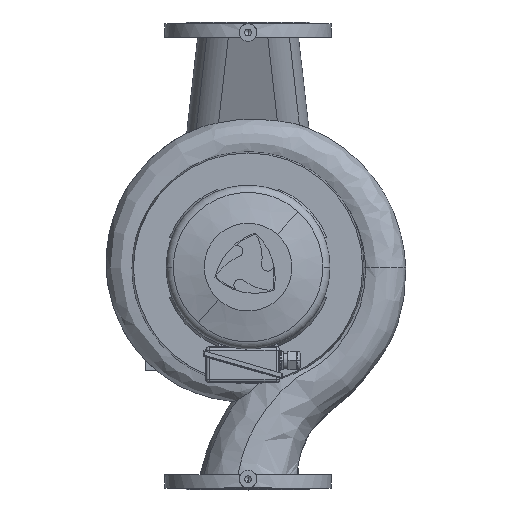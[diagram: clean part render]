
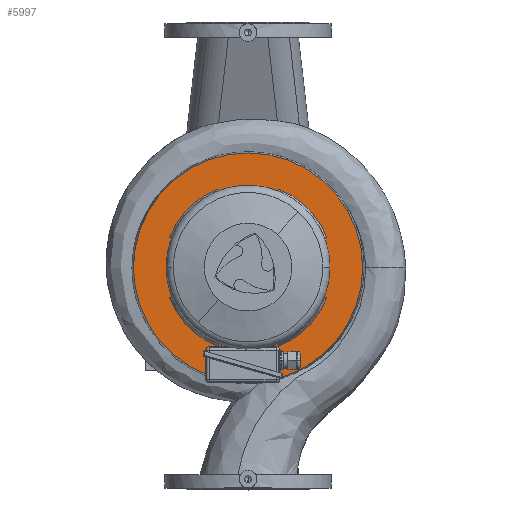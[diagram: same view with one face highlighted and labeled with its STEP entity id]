
A CAD part, top view. The second image highlights one B-rep face of the part: STEP entity #5997.
In plain terms, the highlighted planar face has unit normal (0, 0, 1) as drawn and (1, 0, 0) by its records, which use the part's own axes.
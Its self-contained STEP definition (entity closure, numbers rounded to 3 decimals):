
#5997=ADVANCED_FACE('',(#11830,#11831),#11832,.T.);
#6021=EDGE_CURVE('',#11871,#11872,#11873,.T.);
#6045=EDGE_CURVE('',#11915,#11916,#11917,.T.);
#6053=EDGE_CURVE('',#11925,#11928,#11929,.T.);
#6061=EDGE_CURVE('',#11937,#11940,#11941,.T.);
#6067=EDGE_CURVE('',#11944,#11916,#11949,.T.);
#6069=EDGE_CURVE('',#11951,#11928,#11952,.T.);
#6077=EDGE_CURVE('',#11963,#11959,#11964,.T.);
#6085=EDGE_CURVE('',#11974,#11970,#11975,.T.);
#6093=EDGE_CURVE('',#11981,#11984,#11985,.T.);
#6103=EDGE_CURVE('',#11995,#11925,#11998,.T.);
#6109=EDGE_CURVE('',#12003,#11937,#12006,.T.);
#6117=EDGE_CURVE('',#12014,#12009,#12017,.T.);
#6119=EDGE_CURVE('',#11940,#11959,#12019,.T.);
#6123=EDGE_CURVE('',#12009,#11970,#12023,.T.);
#6127=EDGE_CURVE('',#11984,#11915,#12027,.T.);
#6131=EDGE_CURVE('',#11951,#12003,#12031,.T.);
#6135=EDGE_CURVE('',#11963,#12014,#12035,.T.);
#6137=EDGE_CURVE('',#11944,#11995,#12037,.T.);
#6141=EDGE_CURVE('',#11872,#11871,#12041,.T.);
#6143=EDGE_CURVE('',#11974,#11981,#12043,.T.);
#11830=FACE_OUTER_BOUND('',#23176,.T.);
#11831=FACE_BOUND('',#23177,.T.);
#11832=PLANE('',#23178);
#11871=VERTEX_POINT('',#23219);
#11872=VERTEX_POINT('',#23220);
#11873=CIRCLE('',#23221,196.0);
#11915=VERTEX_POINT('',#23275);
#11916=VERTEX_POINT('',#23276);
#11917=CIRCLE('',#23277,132.799);
#11925=VERTEX_POINT('',#23297);
#11928=VERTEX_POINT('',#23310);
#11929=CIRCLE('',#23311,132.799);
#11937=VERTEX_POINT('',#23331);
#11940=VERTEX_POINT('',#23344);
#11941=CIRCLE('',#23345,132.799);
#11944=VERTEX_POINT('',#23349);
#11949=LINE('',#23366,#23367);
#11951=VERTEX_POINT('',#23370);
#11952=LINE('',#23371,#23372);
#11959=VERTEX_POINT('',#23392);
#11963=VERTEX_POINT('',#23406);
#11964=LINE('',#23407,#23408);
#11970=VERTEX_POINT('',#23427);
#11974=VERTEX_POINT('',#23441);
#11975=LINE('',#23442,#23443);
#11981=VERTEX_POINT('',#23462);
#11984=VERTEX_POINT('',#23475);
#11985=LINE('',#23476,#23477);
#11995=VERTEX_POINT('',#23502);
#11998=LINE('',#23515,#23516);
#12003=VERTEX_POINT('',#23524);
#12006=LINE('',#23537,#23538);
#12009=VERTEX_POINT('',#23542);
#12014=VERTEX_POINT('',#23559);
#12017=LINE('',#23572,#23573);
#12019=CIRCLE('',#23576,132.799);
#12023=CIRCLE('',#23582,132.799);
#12027=CIRCLE('',#23588,132.799);
#12031=CIRCLE('',#23594,144.0);
#12035=CIRCLE('',#23600,144.0);
#12037=CIRCLE('',#23603,144.0);
#12041=CIRCLE('',#23609,196.0);
#12043=CIRCLE('',#23612,144.0);
#23176=EDGE_LOOP('',(#33282,#33283));
#23177=EDGE_LOOP('',(#33284,#33285,#33286,#33287,#33288,#33289,#33290,#33291,#33292,#33293,#33294,#33295,#33296,#33297,#33298,#33299,#33300,#33301));
#23178=AXIS2_PLACEMENT_3D('',#33302,#33303,#33304);
#23219=CARTESIAN_POINT('',(20.0,196.0,0.0));
#23220=CARTESIAN_POINT('',(20.0,-196.0,0.));
#23221=AXIS2_PLACEMENT_3D('',#33404,#33405,#33406);
#23275=CARTESIAN_POINT('',(20.0,-132.799,0.));
#23276=CARTESIAN_POINT('',(20.0,-123.51,-48.794));
#23277=AXIS2_PLACEMENT_3D('',#33440,#33441,#33442);
#23297=CARTESIAN_POINT('',(20.0,-48.794,-123.51));
#23310=CARTESIAN_POINT('',(20.0,48.794,-123.51));
#23311=AXIS2_PLACEMENT_3D('',#33446,#33447,#33448);
#23331=CARTESIAN_POINT('',(20.0,123.51,-48.794));
#23344=CARTESIAN_POINT('',(20.0,132.799,0.));
#23345=AXIS2_PLACEMENT_3D('',#33452,#33453,#33454);
#23349=CARTESIAN_POINT('',(20.0,-134.395,-51.711));
#23366=CARTESIAN_POINT('',(20.0,-134.395,-51.711));
#23367=VECTOR('',#33456,1.0);
#23370=CARTESIAN_POINT('',(20.0,51.711,-134.395));
#23371=CARTESIAN_POINT('',(20.0,51.711,-134.395));
#23372=VECTOR('',#33457,1.0);
#23392=CARTESIAN_POINT('',(20.0,123.51,48.794));
#23406=CARTESIAN_POINT('',(20.0,134.395,51.711));
#23407=CARTESIAN_POINT('',(20.0,134.395,51.711));
#23408=VECTOR('',#33459,1.0);
#23427=CARTESIAN_POINT('',(20.0,-48.794,123.51));
#23441=CARTESIAN_POINT('',(20.0,-51.711,134.395));
#23442=CARTESIAN_POINT('',(20.0,-51.711,134.395));
#23443=VECTOR('',#33461,1.0);
#23462=CARTESIAN_POINT('',(20.0,-134.395,51.711));
#23475=CARTESIAN_POINT('',(20.0,-123.51,48.794));
#23476=CARTESIAN_POINT('',(20.0,-134.395,51.711));
#23477=VECTOR('',#33463,1.0);
#23502=CARTESIAN_POINT('',(20.0,-51.711,-134.395));
#23515=CARTESIAN_POINT('',(20.0,-51.711,-134.395));
#23516=VECTOR('',#33466,1.0);
#23524=CARTESIAN_POINT('',(20.0,134.395,-51.711));
#23537=CARTESIAN_POINT('',(20.0,134.395,-51.711));
#23538=VECTOR('',#33468,1.0);
#23542=CARTESIAN_POINT('',(20.0,48.794,123.51));
#23559=CARTESIAN_POINT('',(20.0,51.711,134.395));
#23572=CARTESIAN_POINT('',(20.0,51.711,134.395));
#23573=VECTOR('',#33470,1.0);
#23576=AXIS2_PLACEMENT_3D('',#33471,#33472,#33473);
#23582=AXIS2_PLACEMENT_3D('',#33477,#33478,#33479);
#23588=AXIS2_PLACEMENT_3D('',#33483,#33484,#33485);
#23594=AXIS2_PLACEMENT_3D('',#33489,#33490,#33491);
#23600=AXIS2_PLACEMENT_3D('',#33495,#33496,#33497);
#23603=AXIS2_PLACEMENT_3D('',#33498,#33499,#33500);
#23609=AXIS2_PLACEMENT_3D('',#33504,#33505,#33506);
#23612=AXIS2_PLACEMENT_3D('',#33507,#33508,#33509);
#33282=ORIENTED_EDGE('',*,*,#6021,.T.);
#33283=ORIENTED_EDGE('',*,*,#6141,.T.);
#33284=ORIENTED_EDGE('',*,*,#6143,.F.);
#33285=ORIENTED_EDGE('',*,*,#6085,.T.);
#33286=ORIENTED_EDGE('',*,*,#6123,.F.);
#33287=ORIENTED_EDGE('',*,*,#6117,.F.);
#33288=ORIENTED_EDGE('',*,*,#6135,.F.);
#33289=ORIENTED_EDGE('',*,*,#6077,.T.);
#33290=ORIENTED_EDGE('',*,*,#6119,.F.);
#33291=ORIENTED_EDGE('',*,*,#6061,.F.);
#33292=ORIENTED_EDGE('',*,*,#6109,.F.);
#33293=ORIENTED_EDGE('',*,*,#6131,.F.);
#33294=ORIENTED_EDGE('',*,*,#6069,.T.);
#33295=ORIENTED_EDGE('',*,*,#6053,.F.);
#33296=ORIENTED_EDGE('',*,*,#6103,.F.);
#33297=ORIENTED_EDGE('',*,*,#6137,.F.);
#33298=ORIENTED_EDGE('',*,*,#6067,.T.);
#33299=ORIENTED_EDGE('',*,*,#6045,.F.);
#33300=ORIENTED_EDGE('',*,*,#6127,.F.);
#33301=ORIENTED_EDGE('',*,*,#6093,.F.);
#33302=CARTESIAN_POINT('',(20.0,170.0,0.0));
#33303=DIRECTION('',(1.0,0.0,0.0));
#33304=DIRECTION('',(0.0,0.0,-1.0));
#33404=CARTESIAN_POINT('',(20.0,0.0,0.0));
#33405=DIRECTION('',(1.0,0.0,0.0));
#33406=DIRECTION('',(0.0,1.0,0.0));
#33440=CARTESIAN_POINT('',(20.0,0.0,0.0));
#33441=DIRECTION('',(1.0,0.0,0.0));
#33442=DIRECTION('',(0.0,1.0,0.0));
#33446=CARTESIAN_POINT('',(20.0,0.0,0.0));
#33447=DIRECTION('',(1.0,0.0,0.0));
#33448=DIRECTION('',(0.0,1.0,0.0));
#33452=CARTESIAN_POINT('',(20.0,0.0,0.0));
#33453=DIRECTION('',(1.0,0.0,0.0));
#33454=DIRECTION('',(0.0,1.0,0.0));
#33456=DIRECTION('',(0.,0.966,0.259));
#33457=DIRECTION('',(0.,-0.259,0.966));
#33459=DIRECTION('',(0.,-0.966,-0.259));
#33461=DIRECTION('',(0.,0.259,-0.966));
#33463=DIRECTION('',(0.,0.966,-0.259));
#33466=DIRECTION('',(0.,0.259,0.966));
#33468=DIRECTION('',(0.,-0.966,0.259));
#33470=DIRECTION('',(0.,-0.259,-0.966));
#33471=CARTESIAN_POINT('',(20.0,0.0,0.0));
#33472=DIRECTION('',(1.0,0.0,0.0));
#33473=DIRECTION('',(0.0,1.0,0.0));
#33477=CARTESIAN_POINT('',(20.0,0.0,0.0));
#33478=DIRECTION('',(1.0,0.0,0.0));
#33479=DIRECTION('',(0.0,1.0,0.0));
#33483=CARTESIAN_POINT('',(20.0,0.0,0.0));
#33484=DIRECTION('',(1.0,0.0,0.0));
#33485=DIRECTION('',(0.0,1.0,0.0));
#33489=CARTESIAN_POINT('',(20.0,0.0,0.0));
#33490=DIRECTION('',(1.0,0.0,0.0));
#33491=DIRECTION('',(0.0,1.0,0.0));
#33495=CARTESIAN_POINT('',(20.0,0.0,0.0));
#33496=DIRECTION('',(1.0,0.0,0.0));
#33497=DIRECTION('',(0.0,1.0,0.0));
#33498=CARTESIAN_POINT('',(20.0,0.0,0.0));
#33499=DIRECTION('',(1.0,0.0,0.0));
#33500=DIRECTION('',(0.0,1.0,0.0));
#33504=CARTESIAN_POINT('',(20.0,0.0,0.0));
#33505=DIRECTION('',(1.0,0.0,0.0));
#33506=DIRECTION('',(0.0,1.0,0.0));
#33507=CARTESIAN_POINT('',(20.0,0.0,0.0));
#33508=DIRECTION('',(1.0,0.0,0.0));
#33509=DIRECTION('',(0.0,1.0,0.0));
